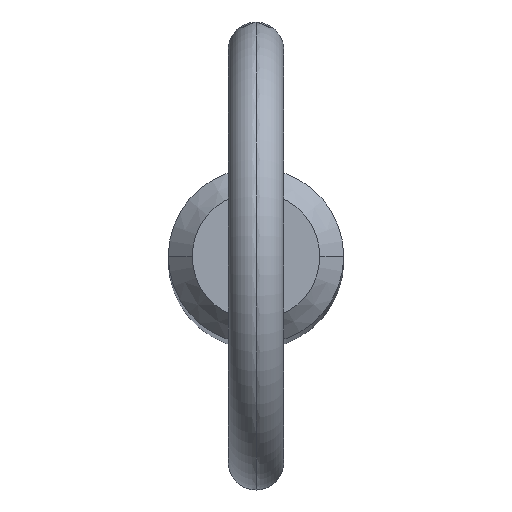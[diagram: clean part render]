
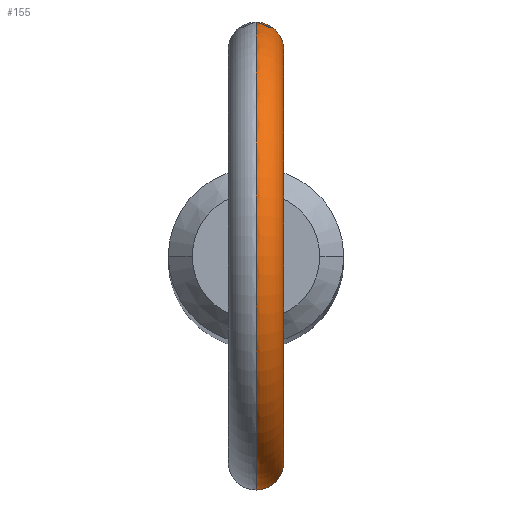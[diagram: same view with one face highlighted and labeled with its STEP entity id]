
A CAD part, top view. The second image highlights one B-rep face of the part: STEP entity #155.
In plain terms, the highlighted toroidal (fillet/blend) face has major radius 11.2 mm and minor radius 1.5 mm.
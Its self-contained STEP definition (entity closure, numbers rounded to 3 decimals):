
#15 = EDGE_CURVE ( 'NONE', #470, #89, #442, .T. ) ;
#20 = CARTESIAN_POINT ( 'NONE',  ( 0.996, 4.655, 135.866 ) ) ;
#24 = CARTESIAN_POINT ( 'NONE',  ( 0.208, -4.757, 133.036 ) ) ;
#28 = CARTESIAN_POINT ( 'NONE',  ( 1.45, -4.534, 134.128 ) ) ;
#39 = ORIENTED_EDGE ( 'NONE', *, *, #113, .T. ) ;
#41 = CARTESIAN_POINT ( 'NONE',  ( 0., -4.76, 133.026 ) ) ;
#61 = CARTESIAN_POINT ( 'NONE',  ( 0.208, 4.76, 136.348 ) ) ;
#62 = CARTESIAN_POINT ( 'NONE',  ( 0., 4.76, 136.348 ) ) ;
#63 = CARTESIAN_POINT ( 'NONE',  ( 1.239, 4.596, 133.659 ) ) ;
#66 = CARTESIAN_POINT ( 'NONE',  ( 1.492, -4.52, 134.748 ) ) ;
#67 = CARTESIAN_POINT ( 'NONE',  ( 0.97, -4.662, 133.35 ) ) ;
#89 = VERTEX_POINT ( 'NONE', #186 ) ;
#103 = CARTESIAN_POINT ( 'NONE',  ( 0.687, -4.711, 136.135 ) ) ;
#106 = CARTESIAN_POINT ( 'NONE',  ( 1.478, -4.525, 134.852 ) ) ;
#108 = CARTESIAN_POINT ( 'NONE',  ( 0.795, 4.697, 133.228 ) ) ;
#109 = CARTESIAN_POINT ( 'NONE',  ( 1.503, -4.517, 134.54 ) ) ;
#113 = EDGE_CURVE ( 'NONE', #330, #121, #486, .T. ) ;
#121 = VERTEX_POINT ( 'NONE', #41 ) ;
#128 = DIRECTION ( 'NONE',  ( 0., 0., -1. ) ) ;
#134 = EDGE_LOOP ( 'NONE', ( #355, #39, #439, #467 ) ) ;
#147 = CARTESIAN_POINT ( 'NONE',  ( 0., -4.76, 136.348 ) ) ;
#150 = CARTESIAN_POINT ( 'NONE',  ( 0.511, 4.733, 133.108 ) ) ;
#151 = CARTESIAN_POINT ( 'NONE',  ( 0.506, -4.734, 136.237 ) ) ;
#152 = CARTESIAN_POINT ( 'NONE',  ( 1.441, 4.537, 135.059 ) ) ;
#155 = ADVANCED_FACE ( 'NONE', ( #496 ), #172, .T. ) ;
#162 = CARTESIAN_POINT ( 'NONE',  ( 0., -4.76, 133.026 ) ) ;
#169 = DIRECTION ( 'NONE',  ( 1., 0., 0. ) ) ;
#172 = TOROIDAL_SURFACE ( 'NONE', #510, 11.2, 1.5 ) ;
#173 = CARTESIAN_POINT ( 'NONE',  ( 0., 0., 144.8 ) ) ;
#186 = CARTESIAN_POINT ( 'NONE',  ( 0., -4.76, 136.348 ) ) ;
#191 = CARTESIAN_POINT ( 'NONE',  ( 1.178, -4.613, 133.576 ) ) ;
#192 = CARTESIAN_POINT ( 'NONE',  ( 0.104, -4.76, 136.348 ) ) ;
#196 = CARTESIAN_POINT ( 'NONE',  ( 1.343, 4.567, 133.837 ) ) ;
#211 = AXIS2_PLACEMENT_3D ( 'NONE', #369, #412, #327 ) ;
#230 = CARTESIAN_POINT ( 'NONE',  ( 1.487, 4.522, 134.853 ) ) ;
#234 = CARTESIAN_POINT ( 'NONE',  ( 0., 4.76, 136.348 ) ) ;
#235 = CARTESIAN_POINT ( 'NONE',  ( 0.797, -4.697, 133.229 ) ) ;
#237 = CARTESIAN_POINT ( 'NONE',  ( 0.409, -4.743, 136.278 ) ) ;
#273 = CARTESIAN_POINT ( 'NONE',  ( 1.508, 4.515, 134.437 ) ) ;
#275 = CARTESIAN_POINT ( 'NONE',  ( 1.404, -4.548, 135.153 ) ) ;
#278 = CARTESIAN_POINT ( 'NONE',  ( 0.411, -4.743, 133.077 ) ) ;
#281 = CARTESIAN_POINT ( 'NONE',  ( 0.997, -4.655, 135.864 ) ) ;
#283 = CARTESIAN_POINT ( 'NONE',  ( 1.473, -4.526, 134.231 ) ) ;
#293 = B_SPLINE_CURVE_WITH_KNOTS ( 'NONE', 3,
 ( #471, #398, #314, #394, #150, #108, #400, #507, #63, #196, #440, #469, #273, #230, #152, #443, #480, #20, #308, #441, #312, #358, #61, #62 ),
 .UNSPECIFIED., .F., .F.,
 ( 4, 2, 2, 2, 2, 2, 2, 2, 2, 2, 2, 4 ),
 ( 0.001, 0.001, 0.001, 0.002, 0.002, 0.002, 0.003, 0.004, 0.004, 0.005, 0.005, 0.006 ),
 .UNSPECIFIED. ) ;
#308 = CARTESIAN_POINT ( 'NONE',  ( 0.925, 4.67, 135.94 ) ) ;
#312 = CARTESIAN_POINT ( 'NONE',  ( 0.685, 4.711, 136.136 ) ) ;
#314 = CARTESIAN_POINT ( 'NONE',  ( 0.207, 4.757, 133.036 ) ) ;
#315 = CARTESIAN_POINT ( 'NONE',  ( 1.293, -4.582, 135.442 ) ) ;
#316 = CARTESIAN_POINT ( 'NONE',  ( 1.385, -4.554, 133.932 ) ) ;
#327 = DIRECTION ( 'NONE',  ( 0., 0., -1. ) ) ;
#330 = VERTEX_POINT ( 'NONE', #501 ) ;
#350 = CARTESIAN_POINT ( 'NONE',  ( 0.77, -4.698, 136.075 ) ) ;
#351 = CARTESIAN_POINT ( 'NONE',  ( 1.434, -4.539, 135.054 ) ) ;
#355 = ORIENTED_EDGE ( 'NONE', *, *, #446, .F. ) ;
#358 = CARTESIAN_POINT ( 'NONE',  ( 0.415, 4.745, 136.288 ) ) ;
#362 = CARTESIAN_POINT ( 'NONE',  ( 0.105, -4.76, 133.026 ) ) ;
#369 = CARTESIAN_POINT ( 'NONE',  ( 0., 0., 144.8 ) ) ;
#381 = DIRECTION ( 'NONE',  ( 1., 0., 0. ) ) ;
#392 = CARTESIAN_POINT ( 'NONE',  ( 1.499, -4.518, 134.437 ) ) ;
#394 = CARTESIAN_POINT ( 'NONE',  ( 0.411, 4.743, 133.077 ) ) ;
#398 = CARTESIAN_POINT ( 'NONE',  ( 0.104, 4.76, 133.026 ) ) ;
#400 = CARTESIAN_POINT ( 'NONE',  ( 0.968, 4.663, 133.349 ) ) ;
#408 = B_SPLINE_CURVE_WITH_KNOTS ( 'NONE', 3,
 ( #147, #192, #475, #237, #151, #103, #350, #509, #281, #511, #315, #275, #351, #106, #66, #109, #392, #283, #28, #316, #437, #472, #191, #67, #235, #508, #278, #24, #362, #162 ),
 .UNSPECIFIED., .F., .F.,
 ( 4, 2, 2, 2, 2, 2, 2, 2, 2, 2, 2, 2, 2, 2, 4 ),
 ( 0.004, 0.005, 0.005, 0.005, 0.006, 0.006, 0.007, 0.007, 0.007, 0.007, 0.008, 0.008, 0.009, 0.009, 0.009 ),
 .UNSPECIFIED. ) ;
#412 = DIRECTION ( 'NONE',  ( 1., 0., 0. ) ) ;
#427 = DIRECTION ( 'NONE',  ( 0., 0., -1. ) ) ;
#437 = CARTESIAN_POINT ( 'NONE',  ( 1.344, -4.567, 133.839 ) ) ;
#439 = ORIENTED_EDGE ( 'NONE', *, *, #491, .F. ) ;
#440 = CARTESIAN_POINT ( 'NONE',  ( 1.385, 4.554, 133.93 ) ) ;
#441 = CARTESIAN_POINT ( 'NONE',  ( 0.771, 4.698, 136.075 ) ) ;
#442 = CIRCLE ( 'NONE', #211, 9.7 ) ;
#443 = CARTESIAN_POINT ( 'NONE',  ( 1.292, 4.582, 135.444 ) ) ;
#446 = EDGE_CURVE ( 'NONE', #330, #470, #293, .T. ) ;
#467 = ORIENTED_EDGE ( 'NONE', *, *, #15, .F. ) ;
#469 = CARTESIAN_POINT ( 'NONE',  ( 1.484, 4.523, 134.228 ) ) ;
#470 = VERTEX_POINT ( 'NONE', #234 ) ;
#471 = CARTESIAN_POINT ( 'NONE',  ( 0., 4.76, 133.026 ) ) ;
#472 = CARTESIAN_POINT ( 'NONE',  ( 1.24, -4.596, 133.66 ) ) ;
#475 = CARTESIAN_POINT ( 'NONE',  ( 0.209, -4.756, 136.334 ) ) ;
#480 = CARTESIAN_POINT ( 'NONE',  ( 1.188, 4.611, 135.627 ) ) ;
#486 = CIRCLE ( 'NONE', #517, 12.7 ) ;
#491 = EDGE_CURVE ( 'NONE', #89, #121, #408, .T. ) ;
#496 = FACE_OUTER_BOUND ( 'NONE', #134, .T. ) ;
#498 = CARTESIAN_POINT ( 'NONE',  ( 0., 0., 144.8 ) ) ;
#501 = CARTESIAN_POINT ( 'NONE',  ( 0., 4.76, 133.026 ) ) ;
#507 = CARTESIAN_POINT ( 'NONE',  ( 1.177, 4.613, 133.575 ) ) ;
#508 = CARTESIAN_POINT ( 'NONE',  ( 0.512, -4.733, 133.108 ) ) ;
#509 = CARTESIAN_POINT ( 'NONE',  ( 0.925, -4.67, 135.939 ) ) ;
#510 = AXIS2_PLACEMENT_3D ( 'NONE', #498, #381, #427 ) ;
#511 = CARTESIAN_POINT ( 'NONE',  ( 1.19, -4.611, 135.624 ) ) ;
#517 = AXIS2_PLACEMENT_3D ( 'NONE', #173, #169, #128 ) ;
